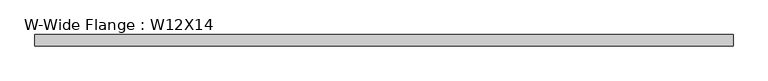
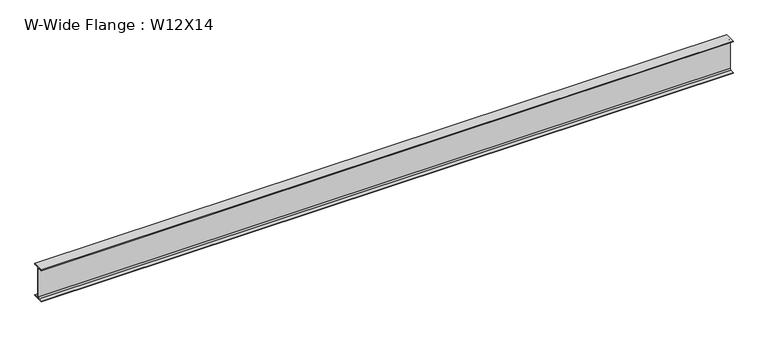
"""IFC4 building model written with IfcOpenShell, lengths in millimetres: beam geometry, W-Wide Flange : W12X14."""

from ifc_helpers import new_model, si_unit, point, frame, frame_2d, origin, place, context, project, spatial, polyline, circle_curve, trimmed, segment, composite_curve, outline, extrude, source, transform, mapped, element, save


def w_wide_flange_w12x14_29cc9951(model_context):
    return source(origin(), model_context, "Body", "SweptSolid", [
        extrude(outline(composite_curve([segment(polyline([(50.419, -145.415), (50.419, -151.13), (-50.419, -151.13), (-50.419, -145.415), (-15.875, -145.415)]), True, "CONTINUOUS"), segment(trimmed(circle_curve(frame_2d((-15.875, -132.08)), 13.335), [point((-15.875, -145.415))], [point((-2.54, -132.08))], True, "CARTESIAN"), True, "CONTINUOUS"), segment(polyline([(-2.54, -132.08), (-2.54, 132.08)]), True, "CONTINUOUS"), segment(trimmed(circle_curve(frame_2d((-15.875, 132.08)), 13.335), [point((-2.54, 132.08))], [point((-15.875, 145.415))], True, "CARTESIAN"), True, "CONTINUOUS"), segment(polyline([(-15.875, 145.415), (-50.419, 145.415), (-50.419, 151.13), (50.419, 151.13), (50.419, 145.415), (15.875, 145.415)]), True, "CONTINUOUS"), segment(trimmed(circle_curve(frame_2d((15.875, 132.08)), 13.335), [point((15.875, 145.415))], [point((2.54, 132.08))], True, "CARTESIAN"), True, "CONTINUOUS"), segment(polyline([(2.54, 132.08), (2.54, -132.08)]), True, "CONTINUOUS"), segment(trimmed(circle_curve(frame_2d((15.875, -132.08)), 13.335), [point((2.54, -132.08))], [point((15.875, -145.415))], True, "CARTESIAN"), True, "CONTINUOUS"), segment(polyline([(15.875, -145.415), (50.419, -145.415)]), True, "CONTINUOUS")], self_intersect=False)), frame((-3039.26875, 0.0, 0.0), z_axis=(1.0, 0.0, 0.0), x_axis=(0.0, 1.0, 0.0)), (0.0, 0.0, 1.0), 6201.9815),
    ])


if __name__ == "__main__":
    model = new_model("IFC4")
    model_context = context("Model", 3, world=origin())
    ifc_project = project(units=[si_unit("LENGTHUNIT", "METRE", prefix="MILLI")], contexts=[model_context])
    site = spatial("IfcSite", under=ifc_project)
    building = spatial("IfcBuilding", under=site)
    placement = place(None, origin())
    w_wide_flange_w12x14_shape = w_wide_flange_w12x14_29cc9951(model_context)
    element("IfcBeam", 1, ObjectType="W-Wide Flange : W12X14", at=placement, inside=building, context=model_context, shape_type="MappedRepresentation", body=[
        mapped(w_wide_flange_w12x14_shape, transform((0.0, 0.0, 0.0), x_axis=(1.0, 0.0, 0.0), y_axis=(0.0, 1.0, 0.0), z_axis=(0.0, 0.0, 1.0))),
    ])
    save(model, "model.ifc")
